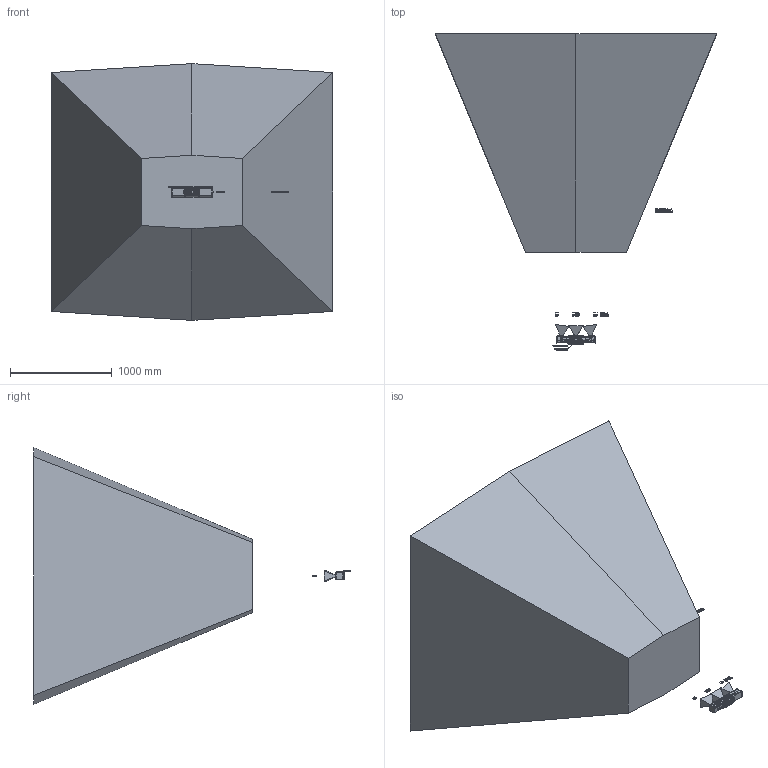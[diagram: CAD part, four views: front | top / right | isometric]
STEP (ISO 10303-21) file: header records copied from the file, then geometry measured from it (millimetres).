
FILE_DESCRIPTION((''),'1');
FILE_NAME('#1740948824','#2021-09-15T19:44:29',(''),(''),' UNKOWN, 1',' UNKOWN, 1','');
FILE_SCHEMA((' CONFIG_CONTROL_DESIGN'));
Products named in the file (1): PM801-E1 30cm V1
Bounding box: 2771.22 x 3116.16 x 2527.88 mm (x, y, z)
Surface area: 16851237.8 mm2 (no closed solid volume)
Topology: 0 solids, 98 shells, 5414 faces, 15289 edges, 10368 vertices
Faces by surface type: plane 2560, bspline 1851, cylinder 814, cone 171, torus 17, sphere 1
Entity records: 414017 total; most frequent: CARTESIAN_POINT 288889, ORIENTED_EDGE 30502, DIRECTION 18084, EDGE_CURVE 15260, VERTEX_POINT 10366, LINE 7594, VECTOR 7594, B_SPLINE_CURVE_WITH_KNOTS 5951
